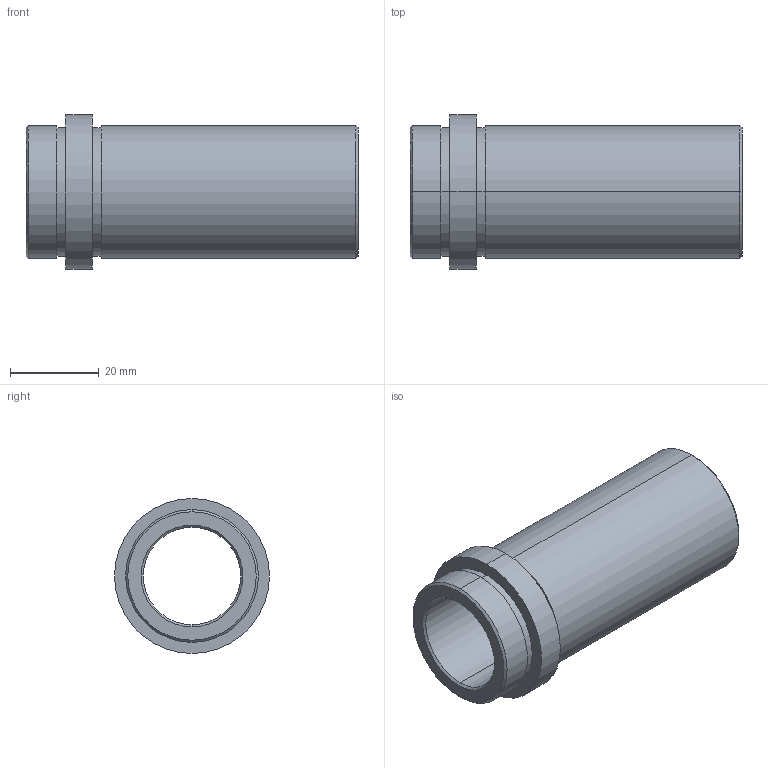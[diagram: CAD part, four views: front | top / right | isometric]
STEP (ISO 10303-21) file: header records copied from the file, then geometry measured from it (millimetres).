
FILE_DESCRIPTION( ( 'STEP AP203' ), '1' );
FILE_NAME( 'D:/Delta 3 D/D21/D21 - 22x66.step', '2002-12-31T22:44:07', ( ' ' ), ( ' ' ), 'XStep 1.0', ' ', ' ' );
FILE_SCHEMA( ( 'CONFIG_CONTROL_DESIGN' ) );
Length unit declared in the file: metre
Products named in the file (1): 1
Bounding box: 75 x 35 x 35 mm (x, y, z)
Volume: 25809.8 mm3; surface area: 13587.5 mm2
Topology: 1 solids, 1 shells, 26 faces, 52 edges, 32 vertices
Faces by surface type: revolution 20, bspline 6
Entity records: 773 total; most frequent: CARTESIAN_POINT 169, DIRECTION 106, ORIENTED_EDGE 104, EDGE_CURVE 52, AXIS2_PLACEMENT_3D 33, EDGE_LOOP 32, VERTEX_POINT 32, CIRCLE 32
